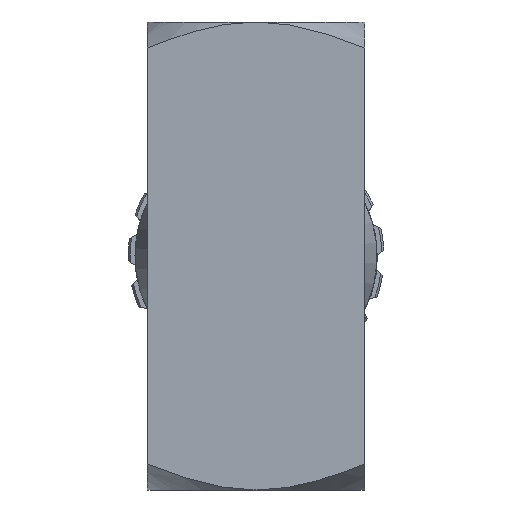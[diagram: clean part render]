
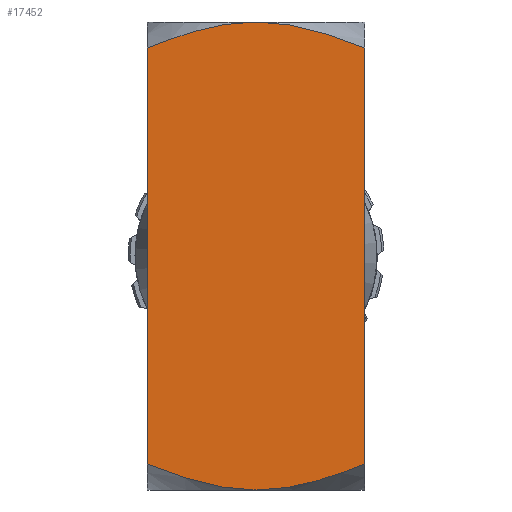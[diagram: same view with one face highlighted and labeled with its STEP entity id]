
A CAD part, front view. The second image highlights one B-rep face of the part: STEP entity #17452.
In plain terms, the highlighted planar face has unit normal (0, -1, 0).
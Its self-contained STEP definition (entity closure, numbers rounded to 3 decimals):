
#206 = VERTEX_POINT ( 'NONE', #13300 ) ;
#476 = B_SPLINE_CURVE_WITH_KNOTS ( 'NONE', 3,
 ( #3931, #7140, #29632, #10358, #32871, #13614, #36123, #16843, #39386, #20069, #839, #23333 ),
 .UNSPECIFIED., .F., .F.,
 ( 4, 2, 2, 2, 2, 4 ),
 ( 0.043, 0.049, 0.054, 0.056, 0.059, 0.064 ),
 .UNSPECIFIED. ) ;
#692 = LINE ( 'NONE', #26242, #25324 ) ;
#839 = CARTESIAN_POINT ( 'NONE',  ( 18.401, -20., 81.87 ) ) ;
#1234 = CARTESIAN_POINT ( 'NONE',  ( -20., -20., 81.217 ) ) ;
#1305 = DIRECTION ( 'NONE',  ( 0., 1., 0. ) ) ;
#1373 = CARTESIAN_POINT ( 'NONE',  ( -1.725, -20., 85.968 ) ) ;
#2072 = CARTESIAN_POINT ( 'NONE',  ( 20., -20., 4.783 ) ) ;
#2210 = CARTESIAN_POINT ( 'NONE',  ( 6.84, -20., 0.62 ) ) ;
#2499 = CARTESIAN_POINT ( 'NONE',  ( 20., -20., 4.783 ) ) ;
#3002 = VECTOR ( 'NONE', #24345, 1000. ) ;
#3620 = CARTESIAN_POINT ( 'NONE',  ( -0.859, -20., 0. ) ) ;
#3931 = CARTESIAN_POINT ( 'NONE',  ( 0., -20., 86. ) ) ;
#4352 = CARTESIAN_POINT ( 'NONE',  ( -20., -20., 81.217 ) ) ;
#4616 = CARTESIAN_POINT ( 'NONE',  ( 0., -20., 86. ) ) ;
#5299 = CARTESIAN_POINT ( 'NONE',  ( 18.401, -20., 4.13 ) ) ;
#5438 = CARTESIAN_POINT ( 'NONE',  ( 1.734, -20., 0. ) ) ;
#6777 = ORIENTED_EDGE ( 'NONE', *, *, #37372, .F. ) ;
#6835 = CARTESIAN_POINT ( 'NONE',  ( -3.458, -20., 0.161 ) ) ;
#7140 = CARTESIAN_POINT ( 'NONE',  ( 1.734, -20., 86. ) ) ;
#7469 = B_SPLINE_CURVE_WITH_KNOTS ( 'NONE', 3,
 ( #22894, #3620, #26094, #6835, #29329, #10045, #32563, #13308, #35813, #16542, #39056, #19766 ),
 .UNSPECIFIED., .F., .F.,
 ( 4, 2, 2, 2, 2, 4 ),
 ( 0.073, 0.075, 0.078, 0.083, 0.088, 0.093 ),
 .UNSPECIFIED. ) ;
#7621 = PLANE ( 'NONE',  #19824 ) ;
#7802 = VERTEX_POINT ( 'NONE', #39158 ) ;
#10045 = CARTESIAN_POINT ( 'NONE',  ( -6.876, -20., 0.626 ) ) ;
#10342 = DIRECTION ( 'NONE',  ( 0., 0., -1. ) ) ;
#10358 = CARTESIAN_POINT ( 'NONE',  ( 6.84, -20., 85.38 ) ) ;
#10919 = CARTESIAN_POINT ( 'NONE',  ( -16.79, -20., 82.489 ) ) ;
#13300 = CARTESIAN_POINT ( 'NONE',  ( 0., -20., 0. ) ) ;
#13308 = CARTESIAN_POINT ( 'NONE',  ( -11.881, -20., 1.857 ) ) ;
#13614 = CARTESIAN_POINT ( 'NONE',  ( 11.017, -20., 84.371 ) ) ;
#14164 = CARTESIAN_POINT ( 'NONE',  ( -11.881, -20., 84.143 ) ) ;
#15008 = CARTESIAN_POINT ( 'NONE',  ( 14.326, -20., 2.652 ) ) ;
#15161 = EDGE_LOOP ( 'NONE', ( #24404, #6777, #30497, #28643, #40054, #35465 ) ) ;
#16542 = CARTESIAN_POINT ( 'NONE',  ( -16.79, -20., 3.511 ) ) ;
#16843 = CARTESIAN_POINT ( 'NONE',  ( 13.501, -20., 83.621 ) ) ;
#17406 = CARTESIAN_POINT ( 'NONE',  ( -6.876, -20., 85.374 ) ) ;
#17452 = ADVANCED_FACE ( 'NONE', ( #20515 ), #7621, .F. ) ;
#17926 = CARTESIAN_POINT ( 'NONE',  ( 20., -20., 81.217 ) ) ;
#18240 = CARTESIAN_POINT ( 'NONE',  ( 11.847, -20., 1.868 ) ) ;
#19766 = CARTESIAN_POINT ( 'NONE',  ( -20., -20., 4.783 ) ) ;
#19824 = AXIS2_PLACEMENT_3D ( 'NONE', #20568, #1305, #23823 ) ;
#20069 = CARTESIAN_POINT ( 'NONE',  ( 16.786, -20., 82.491 ) ) ;
#20087 = LINE ( 'NONE', #21371, #3002 ) ;
#20515 = FACE_OUTER_BOUND ( 'NONE', #15161, .T. ) ;
#20568 = CARTESIAN_POINT ( 'NONE',  ( -20., -20., 86. ) ) ;
#20637 = CARTESIAN_POINT ( 'NONE',  ( -3.458, -20., 85.839 ) ) ;
#21371 = CARTESIAN_POINT ( 'NONE',  ( -20., -20., 86. ) ) ;
#21376 = VERTEX_POINT ( 'NONE', #41241 ) ;
#21479 = CARTESIAN_POINT ( 'NONE',  ( 8.518, -20., 0.974 ) ) ;
#22894 = CARTESIAN_POINT ( 'NONE',  ( 0., -20., 0. ) ) ;
#22948 = EDGE_CURVE ( 'NONE', #21376, #33178, #476, .T. ) ;
#23333 = CARTESIAN_POINT ( 'NONE',  ( 20., -20., 81.217 ) ) ;
#23823 = DIRECTION ( 'NONE',  ( 0., 0., 1. ) ) ;
#23891 = CARTESIAN_POINT ( 'NONE',  ( -0.859, -20., 86. ) ) ;
#24345 = DIRECTION ( 'NONE',  ( 0., 0., -1. ) ) ;
#24404 = ORIENTED_EDGE ( 'NONE', *, *, #37704, .F. ) ;
#24714 = CARTESIAN_POINT ( 'NONE',  ( 3.448, -20., 0.132 ) ) ;
#25324 = VECTOR ( 'NONE', #10342, 1000. ) ;
#25886 = EDGE_CURVE ( 'NONE', #28158, #7802, #20087, .T. ) ;
#26094 = CARTESIAN_POINT ( 'NONE',  ( -1.725, -20., 0.032 ) ) ;
#26242 = CARTESIAN_POINT ( 'NONE',  ( 20., -20., 86. ) ) ;
#26280 = EDGE_CURVE ( 'NONE', #206, #7802, #7469, .T. ) ;
#27916 = CARTESIAN_POINT ( 'NONE',  ( 0., -20., 0. ) ) ;
#28158 = VERTEX_POINT ( 'NONE', #4352 ) ;
#28643 = ORIENTED_EDGE ( 'NONE', *, *, #36259, .F. ) ;
#29329 = CARTESIAN_POINT ( 'NONE',  ( -4.317, -20., 0.256 ) ) ;
#29632 = CARTESIAN_POINT ( 'NONE',  ( 3.448, -20., 85.868 ) ) ;
#30037 = CARTESIAN_POINT ( 'NONE',  ( -18.403, -20., 81.869 ) ) ;
#30497 = ORIENTED_EDGE ( 'NONE', *, *, #22948, .F. ) ;
#32563 = CARTESIAN_POINT ( 'NONE',  ( -8.556, -20., 0.983 ) ) ;
#32759 = VERTEX_POINT ( 'NONE', #2499 ) ;
#32871 = CARTESIAN_POINT ( 'NONE',  ( 8.518, -20., 85.026 ) ) ;
#33178 = VERTEX_POINT ( 'NONE', #17926 ) ;
#33427 = CARTESIAN_POINT ( 'NONE',  ( -13.525, -20., 83.628 ) ) ;
#34253 = CARTESIAN_POINT ( 'NONE',  ( 16.786, -20., 3.509 ) ) ;
#35465 = ORIENTED_EDGE ( 'NONE', *, *, #26280, .F. ) ;
#35813 = CARTESIAN_POINT ( 'NONE',  ( -13.525, -20., 2.372 ) ) ;
#36123 = CARTESIAN_POINT ( 'NONE',  ( 11.847, -20., 84.132 ) ) ;
#36259 = EDGE_CURVE ( 'NONE', #28158, #21376, #37143, .T. ) ;
#36683 = CARTESIAN_POINT ( 'NONE',  ( -8.556, -20., 85.017 ) ) ;
#37143 = B_SPLINE_CURVE_WITH_KNOTS ( 'NONE', 3,
 ( #1234, #30037, #10919, #33427, #14164, #36683, #17406, #39945, #20637, #1373, #23891, #4616 ),
 .UNSPECIFIED., .F., .F.,
 ( 4, 2, 2, 2, 2, 4 ),
 ( 0.023, 0.028, 0.033, 0.038, 0.041, 0.043 ),
 .UNSPECIFIED. ) ;
#37372 = EDGE_CURVE ( 'NONE', #33178, #32759, #692, .T. ) ;
#37536 = CARTESIAN_POINT ( 'NONE',  ( 13.501, -20., 2.379 ) ) ;
#37704 = EDGE_CURVE ( 'NONE', #32759, #206, #38652, .T. ) ;
#38652 = B_SPLINE_CURVE_WITH_KNOTS ( 'NONE', 3,
 ( #2072, #5299, #34253, #15008, #37536, #18240, #40780, #21479, #2210, #24714, #5438, #27916 ),
 .UNSPECIFIED., .F., .F.,
 ( 4, 2, 2, 2, 2, 4 ),
 ( 0.052, 0.057, 0.06, 0.062, 0.067, 0.073 ),
 .UNSPECIFIED. ) ;
#39056 = CARTESIAN_POINT ( 'NONE',  ( -18.403, -20., 4.131 ) ) ;
#39158 = CARTESIAN_POINT ( 'NONE',  ( -20., -20., 4.783 ) ) ;
#39386 = CARTESIAN_POINT ( 'NONE',  ( 14.326, -20., 83.348 ) ) ;
#39945 = CARTESIAN_POINT ( 'NONE',  ( -4.317, -20., 85.744 ) ) ;
#40054 = ORIENTED_EDGE ( 'NONE', *, *, #25886, .T. ) ;
#40780 = CARTESIAN_POINT ( 'NONE',  ( 11.017, -20., 1.629 ) ) ;
#41241 = CARTESIAN_POINT ( 'NONE',  ( 0., -20., 86. ) ) ;
